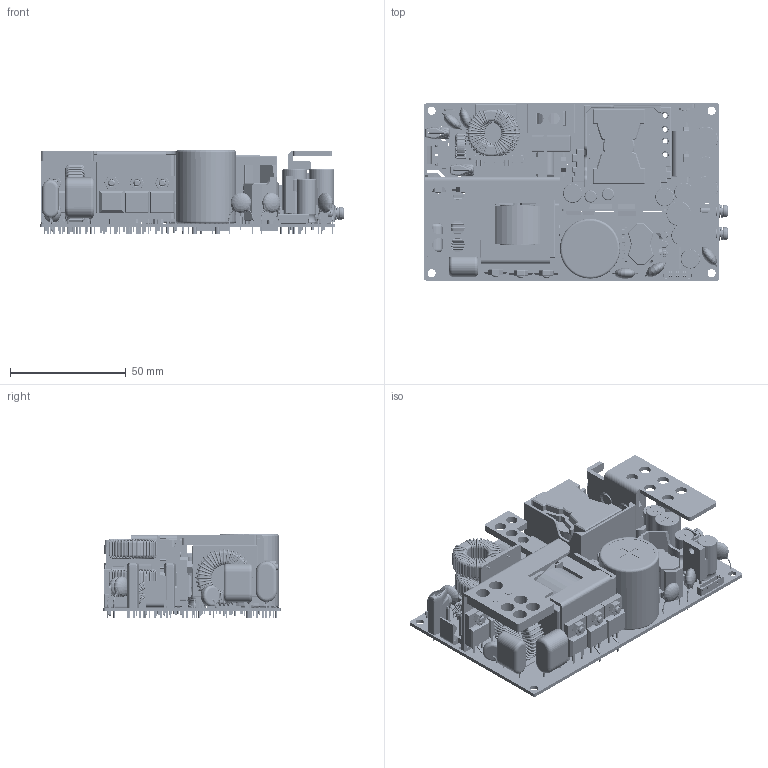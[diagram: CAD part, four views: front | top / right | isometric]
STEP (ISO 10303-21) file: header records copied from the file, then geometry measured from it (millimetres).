
FILE_DESCRIPTION((''),'2;1');
FILE_NAME('MDS-300AXBXX_SERIES_ASM','2019-08-02T',('TONY.CH.YU'),(''),'PRO/ENGINEER BY PARAMETRIC TECHNOLOGY CORPORATION, 2015240','PRO/ENGINEER BY PARAMETRIC TECHNOLOGY CORPORATION, 2015240','');
FILE_SCHEMA(('AUTOMOTIVE_DESIGN_CC2 { 1 2 10303 214 -1 1 5 2 }'));
Length unit declared in the file: millimetre
Products named in the file (194): MDS-300APB12_AA_PCB_AF0_1; HEAT_SINK-1_AF1_1; HSK-1_1; PIN_AF0_1; PIN_AF1_1; HEAT_SINK-1_AF0_1_ASM; Q5_Q6_AF0_1; Q5_Q6_AF1_1; BD1_AF0_1; 3105456700_M3X7; 3110110100; HSK1_AF0_1_ASM; HEAT_SINK-2_AF1_1; PIN_AF2_1; PIN_AF3_1; HEAT_SINK-2_AF0_1_ASM; D10_AF0_1; Q5_Q6_AF2_1; Q5_Q6_AF3_1; HSK2_AF0_1_ASM; HEAT_SINK-3_AF1_1; PIN_AF4_1; PIN_AF5_1; HEAT_SINK-3_AF0_1_ASM; Q102_Q101_D101_AF0_1; Q102_Q101_D101_AF1_1; HSK3_AF0_1_ASM; HEAT_SINK-4_1; Q5_Q6_AF4_1; Q5_Q6_AF5_1; HSK4_AF0_1_ASM; CX1_AF0_1; CN101_AF0_1; C3_AF0_1; C5_AF0_1; C6_AF0_1; CY_AF0_1; CY_AF1_1; CY_AF2_1; CY_AF3_1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
Assembly tree (215 placements, depth 4):
  MDS-300AXBXX_SERIES_ASM
    MDS-300APB12_AA_PCB_AF0_1
    HSK1_AF0_1_ASM
      HEAT_SINK-1_AF0_1_ASM
        HEAT_SINK-1_AF1_1
        HSK-1_1
        PIN_AF0_1
        PIN_AF1_1
      Q5_Q6_AF0_1
      Q5_Q6_AF1_1
      BD1_AF0_1
      3105456700_M3X7  x2
      3110110100  x2
    HSK2_AF0_1_ASM
      HEAT_SINK-2_AF0_1_ASM
        HEAT_SINK-2_AF1_1
        PIN_AF2_1
        PIN_AF3_1
      D10_AF0_1
      Q5_Q6_AF2_1
      Q5_Q6_AF3_1
      3105456700_M3X7  x3
      3110110100  x3
    HSK3_AF0_1_ASM
      HEAT_SINK-3_AF0_1_ASM
        HEAT_SINK-3_AF1_1
        PIN_AF4_1
        PIN_AF5_1
      Q102_Q101_D101_AF0_1
      Q102_Q101_D101_AF1_1
      3105456700_M3X7  x2
      3110110100  x2
    HSK4_AF0_1_ASM
      HEAT_SINK-4_1
      Q5_Q6_AF4_1
      Q5_Q6_AF5_1
    CX1_AF0_1
    CN101_AF0_1
    C3_AF0_1
    C5_AF0_1
    C6_AF0_1
    CY_AF0_1
    CY_AF1_1
    CY_AF2_1
    CY_AF3_1
    C101_AF0_1
    C101_AF1_1
    C101_AF2_1
    C103_AF0_1
    C115_C116_AF0_1
    C115_C116_AF1_1
    C25_AF0_1
    C26_C27_AF0_1
    C26_C27_AF1_1
    PWB_TDC-280_AF0_1
    Q102_Q101_D101_1
    F1_F2_AF0_1_ASM
      SPACER_AF0_1
      RESISTANCE_AF0_1
      TUBE_1
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Bounding box: 131.1 x 76.5 x 36.2 mm (x, y, z)
Volume: 142662.9 mm3; surface area: 135923.9 mm2
Topology: 232 solids, 234 shells, 8239 faces, 20612 edges, 12553 vertices
Faces by surface type: plane 3108, cylinder 2972, torus 1356, bspline 330, sphere 226, extrusion 124, cone 101, revolution 22
Entity records: 280721 total; most frequent: CARTESIAN_POINT 63197, DIRECTION 37530, ORIENTED_EDGE 34950, EDGE_CURVE 17475, AXIS2_PLACEMENT_3D 13941, VERTEX_POINT 10971, VECTOR 9628, LINE 9521
